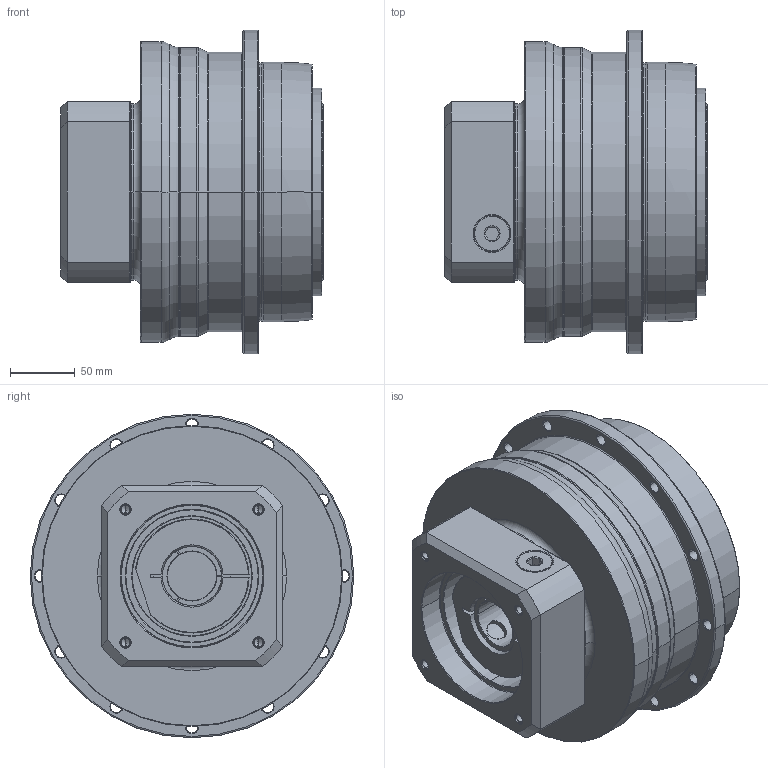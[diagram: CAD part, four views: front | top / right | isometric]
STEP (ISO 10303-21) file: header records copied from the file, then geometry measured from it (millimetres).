
FILE_DESCRIPTION((''),'2;1');
FILE_NAME('AH200_1ST_38-P0409900101_ASM','2016-09-26T',('d00435'),(''),'PRO/ENGINEER BY PARAMETRIC TECHNOLOGY CORPORATION, 2008410','PRO/ENGINEER BY PARAMETRIC TECHNOLOGY CORPORATION, 2008410','');
FILE_SCHEMA(('CONFIG_CONTROL_DESIGN'));
Length unit declared in the file: millimetre
Products named in the file (8): P0278600003; P0359600003; P1318600201; P0409900101; P0503900012; P0912602201; 21711422019; AH200_1ST_38-P0409900101_ASM
Assembly tree (7 placements, depth 2):
  AH200_1ST_38-P0409900101_ASM
    P0278600003
    P0359600003
    P1318600201
    P0409900101
    P0503900012
    P0912602201
    21711422019
Bounding box: 202.5 x 249.5 x 249.5 mm (x, y, z)
Volume: 5916552.4 mm3; surface area: 532253.5 mm2
Topology: 8 solids, 32 shells, 615 faces, 1463 edges, 891 vertices
Faces by surface type: cylinder 254, cone 168, plane 117, torus 62, bspline 14
Entity records: 22415 total; most frequent: CARTESIAN_POINT 7804, DIRECTION 3339, ORIENTED_EDGE 2738, AXIS2_PLACEMENT_3D 1423, EDGE_CURVE 1417, VERTEX_POINT 891, CIRCLE 797, EDGE_LOOP 726
